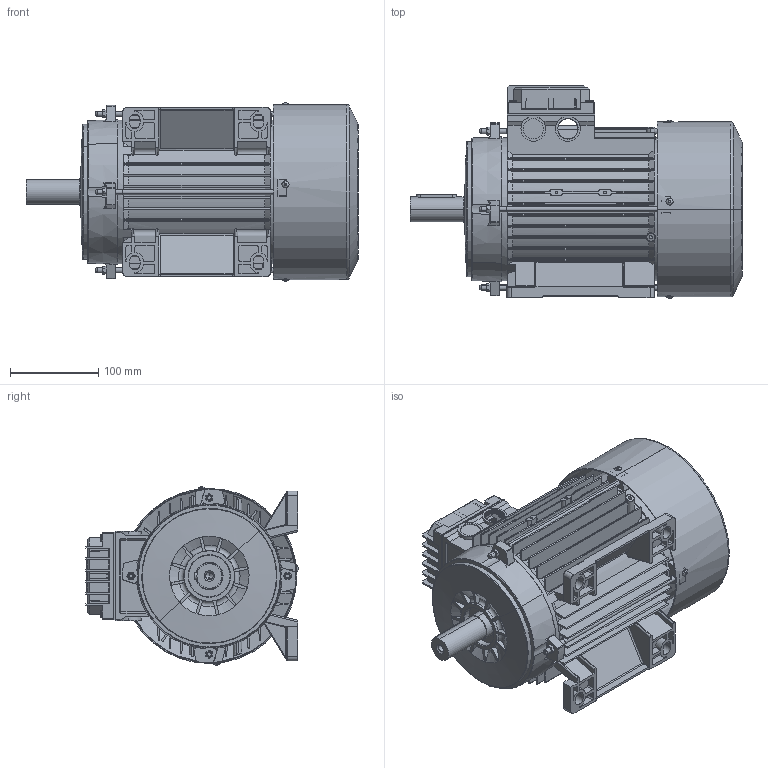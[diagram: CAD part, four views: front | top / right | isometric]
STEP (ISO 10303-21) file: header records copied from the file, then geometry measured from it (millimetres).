
FILE_DESCRIPTION (( 'STEP AP214' ), '1' );
FILE_NAME ('M24GA0011.STEP', '2019-09-20T08:42:07', ( '' ), ( '' ), 'SwSTEP 2.0', 'SolidWorks 2018', '' );
FILE_SCHEMA (( 'AUTOMOTIVE_DESIGN' ));
Length unit declared in the file: millimetre
Products named in the file (14): M24GA0011; Vite testa rotonda M3; Cuffia SM 100; Dado M5; Tirante SM 100; Ventola BM 100-112; Chiavetta 100-112; Albero SM 100; Scudo Lato Comando B3 BA-BM 100 - DEAD0094; Coperchio per Scatola Singola 90 - 100 - 112 con viti; Guarnizione Coperchio Semplice Scatola BA 90 100 112 - DDAL0094; Vite per coperchio morsettiera; Coperchio per Scatola Singola 90 - 100 - 112; Carcassa 100 L B3
Assembly tree (26 placements, depth 3):
  M24GA0011
    Carcassa 100 L B3
    Coperchio per Scatola Singola 90 - 100 - 112 con viti
      Coperchio per Scatola Singola 90 - 100 - 112
      Vite per coperchio morsettiera  x4
      Guarnizione Coperchio Semplice Scatola BA 90 100 112 - DDAL0094
    Scudo Lato Comando B3 BA-BM 100 - DEAD0094  x2
    Albero SM 100
    Chiavetta 100-112
    Ventola BM 100-112
    Tirante SM 100  x4
    Dado M5  x4
    Cuffia SM 100
    Vite testa rotonda M3  x4
Bounding box: 375.5 x 240.81 x 201.63 mm (x, y, z)
Volume: 1682333.7 mm3; surface area: 962666.9 mm2
Topology: 29 solids, 29 shells, 3840 faces, 10627 edges, 6892 vertices
Faces by surface type: plane 1557, cylinder 1398, torus 425, cone 308, bspline 140, sphere 12
Entity records: 112016 total; most frequent: CARTESIAN_POINT 32073, ORIENTED_EDGE 17254, DIRECTION 16041, EDGE_CURVE 8627, AXIS2_PLACEMENT_3D 5808, VERTEX_POINT 5629, LINE 4425, VECTOR 4425
